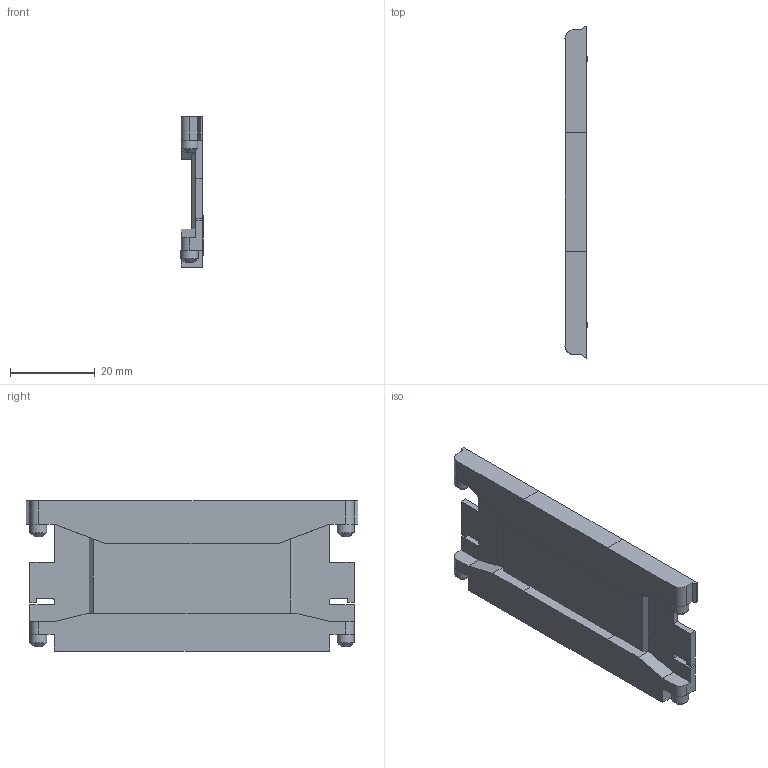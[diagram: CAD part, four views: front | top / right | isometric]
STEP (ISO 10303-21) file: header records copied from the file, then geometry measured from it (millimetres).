
FILE_DESCRIPTION((''),'2;1');
FILE_NAME('C:\Uebbing\PARAMETERKETTEN\KOLIBRI\Kol_50_095_2\Kol_50_95_0_Klappsteg.stp','2011-11-02T13:29:54',('Uebbing'),(''),'Autodesk Inventor 10','Autodesk Inventor 10','');
FILE_SCHEMA(('AUTOMOTIVE_DESIGN { 1 0 10303 214 1 1 1 1 }'));
Length unit declared in the file: millimetre
Products named in the file (1): Kol_50_95_0_Klappsteg
Bounding box: 5.22 x 78.4 x 35.52 mm (x, y, z)
Volume: 9171 mm3; surface area: 6728.6 mm2
Topology: 1 solids, 1 shells, 130 faces, 366 edges, 242 vertices
Faces by surface type: bspline 61, plane 52, cylinder 15, cone 2
Full cylindrical faces by diameter (mm): 4 x1, 4.036 x1
Entity records: 4340 total; most frequent: CARTESIAN_POINT 1144, ORIENTED_EDGE 708, DIRECTION 564, EDGE_CURVE 354, VECTOR 284, LINE 284, VERTEX_POINT 238, EDGE_LOOP 142
